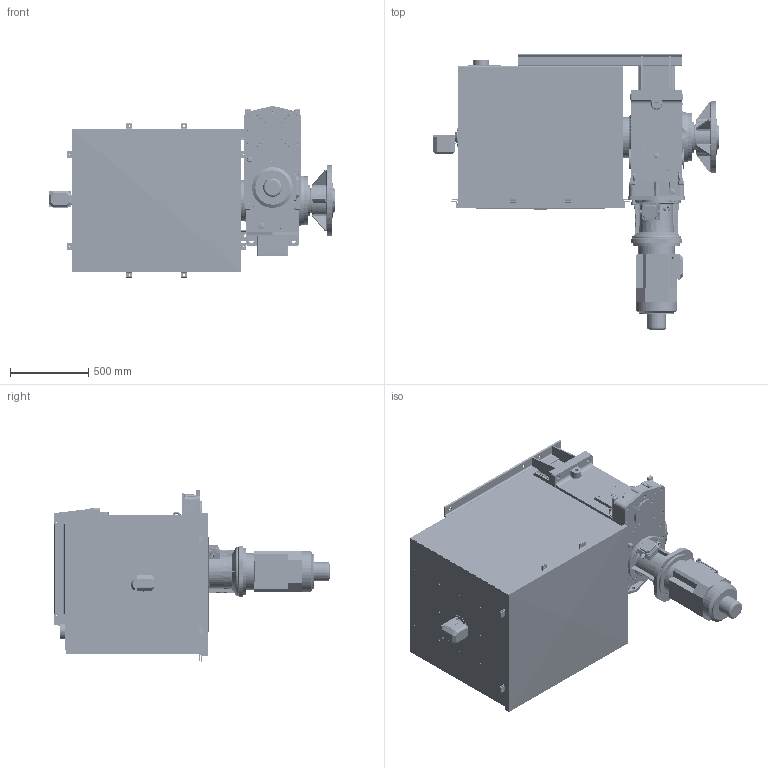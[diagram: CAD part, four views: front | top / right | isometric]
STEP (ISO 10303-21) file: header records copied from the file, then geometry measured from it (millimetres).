
FILE_DESCRIPTION(/* description */ (''),/* implementation_level */ '2;1');
FILE_NAME(/* name */ 'K:\NEMANJA\CABLE REEL\CABLE REEL DA\0700-6\07006005 DA-CRVD\STEP\75960.stp',/* time_stamp */ '2017-03-16T13:38:07+01:00',/* author */ ('zeldjo01'),/* organization */ ('Hillmar Industries Ltd.'),/* preprocessor_version */ 'ST-DEVELOPER v16.1',/* originating_system */ 'Autodesk Inventor 2016',/* authorisation */ '');
FILE_SCHEMA (('AUTOMOTIVE_DESIGN { 1 0 10303 214 3 1 1 }'));
Products named in the file (1): 75960
Bounding box: 1834.14 x 1764.09 x 1096.62 mm (x, y, z)
Volume: 122184197.8 mm3; surface area: 21104793.7 mm2
Topology: 7 solids, 7 shells, 4736 faces, 12506 edges, 8030 vertices
Faces by surface type: plane 2000, cylinder 1542, bspline 591, cone 350, torus 222, sphere 31
Full cylindrical faces by diameter (mm): 7 x4, 8 x2, 8.376 x24, 8.731 x1, 9 x3, 10 x25, 10.106 x83, 10.38 x2, 11 x32, 12 x13, 12.5 x6, 13 x35, 13.2 x2, 13.5 x12, 14 x32, 14.3 x8, 15 x6, 16 x2, 16.974 x1, 18 x3, 18.256 x3, 18.38 x4, 20 x20, 20.5 x4, 21.336 x1, 22 x21, 22.225 x1, 22.3 x4, 23.812 x2, 24.917 x1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
Entity records: 161707 total; most frequent: CARTESIAN_POINT 47065, ORIENTED_EDGE 22724, DIRECTION 21625, EDGE_CURVE 11343, AXIS2_PLACEMENT_3D 7995, VERTEX_POINT 7632, EDGE_LOOP 6083, LINE 5635
